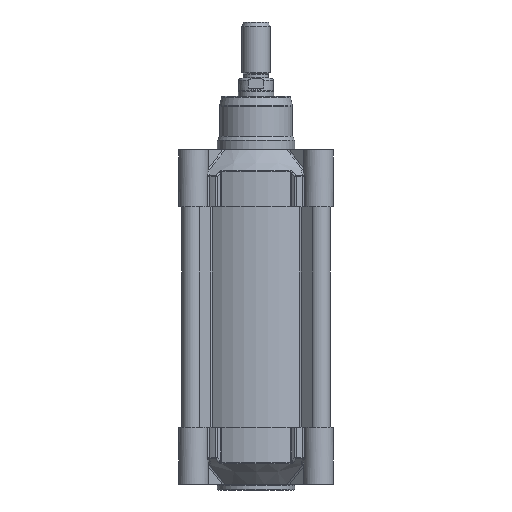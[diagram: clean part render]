
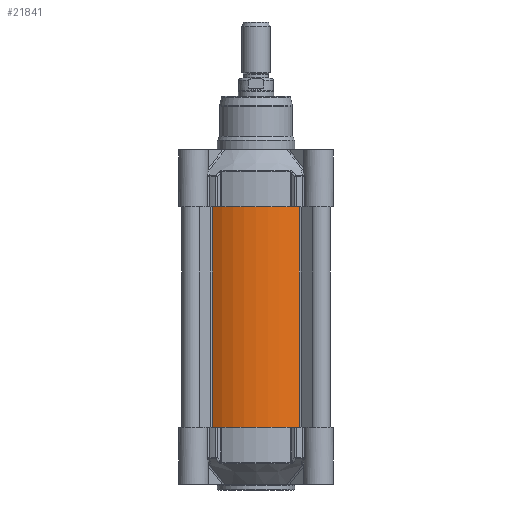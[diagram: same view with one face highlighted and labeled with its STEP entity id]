
A CAD part, left-side view. The second image highlights one B-rep face of the part: STEP entity #21841.
In plain terms, the highlighted cylindrical face has radius 52.7 mm (diameter 105.4 mm), a partial arc.
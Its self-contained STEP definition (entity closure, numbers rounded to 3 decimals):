
#1972=LINE('',#43617,#3030);
#1973=LINE('',#43621,#3031);
#3030=VECTOR('',#29906,10.);
#3031=VECTOR('',#29911,10.);
#4020=CYLINDRICAL_SURFACE('',#24279,52.7);
#5708=FACE_OUTER_BOUND('',#7393,.T.);
#7393=EDGE_LOOP('',(#18817,#18818,#18819,#18820));
#8528=CIRCLE('',#24118,52.7);
#8585=CIRCLE('',#24280,52.7);
#10334=VERTEX_POINT('',#43193);
#10335=VERTEX_POINT('',#43195);
#10441=VERTEX_POINT('',#43615);
#10442=VERTEX_POINT('',#43619);
#13081=EDGE_CURVE('',#10334,#10335,#8528,.T.);
#13292=EDGE_CURVE('',#10334,#10441,#1972,.T.);
#13293=EDGE_CURVE('',#10442,#10441,#8585,.T.);
#13294=EDGE_CURVE('',#10335,#10442,#1973,.T.);
#18817=ORIENTED_EDGE('',*,*,#13292,.T.);
#18818=ORIENTED_EDGE('',*,*,#13293,.F.);
#18819=ORIENTED_EDGE('',*,*,#13294,.F.);
#18820=ORIENTED_EDGE('',*,*,#13081,.F.);
#21841=ADVANCED_FACE('',(#5708),#4020,.T.);
#24118=AXIS2_PLACEMENT_3D('',#43196,#29430,#29431);
#24279=AXIS2_PLACEMENT_3D('',#43618,#29907,#29908);
#24280=AXIS2_PLACEMENT_3D('',#43620,#29909,#29910);
#29430=DIRECTION('center_axis',(0.,0.,-1.));
#29431=DIRECTION('ref_axis',(-0.586,-0.81,0.));
#29906=DIRECTION('',(0.,0.,1.));
#29907=DIRECTION('center_axis',(0.,0.,1.));
#29908=DIRECTION('ref_axis',(-0.586,-0.81,0.));
#29909=DIRECTION('center_axis',(0.,0.,1.));
#29910=DIRECTION('ref_axis',(-0.586,-0.81,0.));
#29911=DIRECTION('',(0.,0.,1.));
#43193=CARTESIAN_POINT('',(30.896,-42.693,-78.5));
#43195=CARTESIAN_POINT('',(-30.896,-42.693,-78.5));
#43196=CARTESIAN_POINT('Origin',(0.,0.,
-78.5));
#43615=CARTESIAN_POINT('',(30.896,-42.693,78.5));
#43617=CARTESIAN_POINT('',(30.896,-42.693,0.));
#43618=CARTESIAN_POINT('Origin',(0.,0.,
0.));
#43619=CARTESIAN_POINT('',(-30.896,-42.693,78.5));
#43620=CARTESIAN_POINT('Origin',(0.,0.,
78.5));
#43621=CARTESIAN_POINT('',(-30.896,-42.693,0.));
